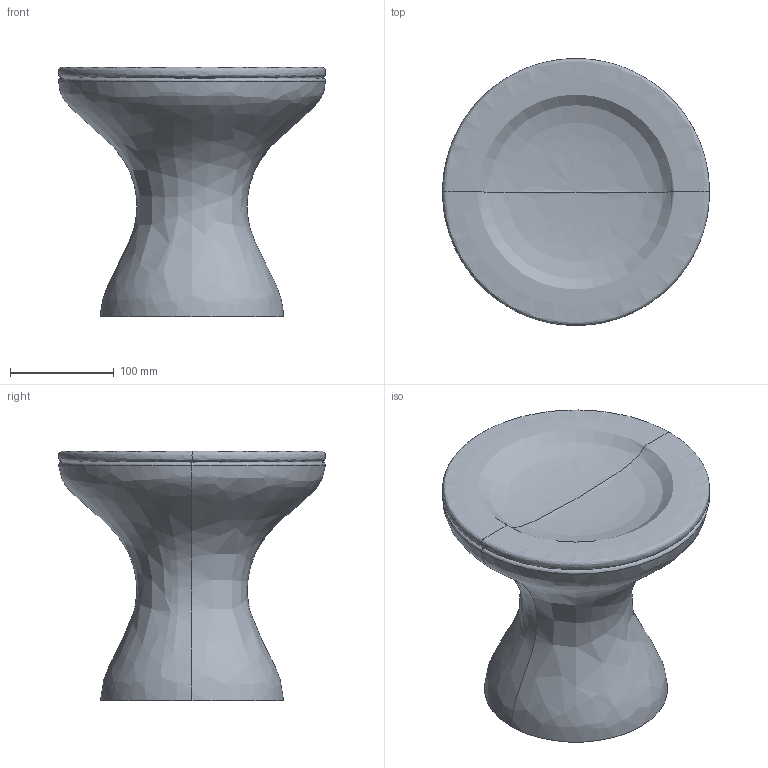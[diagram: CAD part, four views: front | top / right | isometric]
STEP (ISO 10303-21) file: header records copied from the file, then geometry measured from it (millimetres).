
FILE_DESCRIPTION(/* description */ (''),/* implementation_level */ '2;1');
FILE_NAME(/* name */ '23',/* time_stamp */ '2026-07-06T11:27:56+02:00',/* author */ (''),/* organization */ (''),/* preprocessor_version */ 'ST-DEVELOPER v19.2',/* originating_system */ 'Rhino 8.32',/* authorisation */ '');
FILE_SCHEMA (('CONFIG_CONTROL_DESIGN'));
Length unit declared in the file: millimetre
Products named in the file (1): Document
Bounding box: 257.34 x 257.33 x 240.69 mm (x, y, z)
Volume: 3008709.3 mm3; surface area: 388369.1 mm2
Topology: 2 solids, 2 shells, 17 faces, 34 edges, 18 vertices
Faces by surface type: bspline 14, plane 3
Entity records: 3717 total; most frequent: CARTESIAN_POINT 3396, ORIENTED_EDGE 60, EDGE_CURVE 30, DIRECTION 29, EDGE_LOOP 18, VERTEX_POINT 18, ADVANCED_FACE 17, FACE_OUTER_BOUND 17
